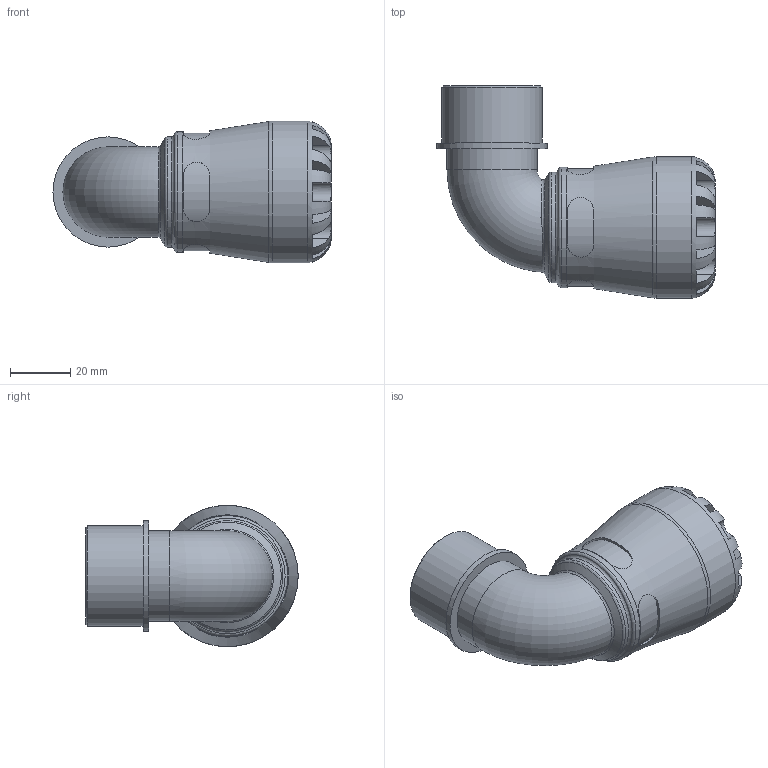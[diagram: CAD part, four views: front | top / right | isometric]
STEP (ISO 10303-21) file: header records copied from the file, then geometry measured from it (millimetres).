
FILE_DESCRIPTION(/* description */ ('PLASSON 90° ELBOW WITH THREADED MALE OFFTAKE 25X1" SERIES 1'),/* implementation_level */ '2;1');
FILE_NAME(/* name */ 'C:\Dropbox\KIMPROJECTS-Inventor\99-16-3568-Processing\1085\108500025010_198500025010.ipt.stp',/* time_stamp */ '2017-01-22T11:49:19+02:00',/* author */ ('KIM'),/* organization */ (''),/* preprocessor_version */ 'ST-DEVELOPER v15.6',/* originating_system */ 'Autodesk Inventor 2015',/* authorisation */ '');
FILE_SCHEMA (('AUTOMOTIVE_DESIGN { 1 0 10303 214 3 1 1 }'));
Length unit declared in the file: millimetre
Products named in the file (1): 108500025010_198500025010
Bounding box: 92.29 x 70.5 x 47 mm (x, y, z)
Volume: 71770.4 mm3; surface area: 25033.7 mm2
Topology: 1 solids, 1 shells, 110 faces, 269 edges, 167 vertices
Faces by surface type: plane 61, cylinder 37, torus 7, bspline 3, cone 2
Full cylindrical faces by diameter (mm): 23.274 x2, 25 x1, 29.924 x1, 33.249 x1, 36.574 x1, 36.66 x1, 39.95 x1, 47 x1
Entity records: 4330 total; most frequent: CARTESIAN_POINT 1790, ORIENTED_EDGE 488, DIRECTION 487, EDGE_CURVE 244, AXIS2_PLACEMENT_3D 203, VERTEX_POINT 161, EDGE_LOOP 137, STYLED_ITEM 111
